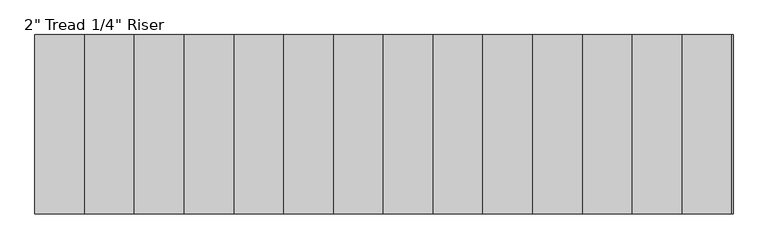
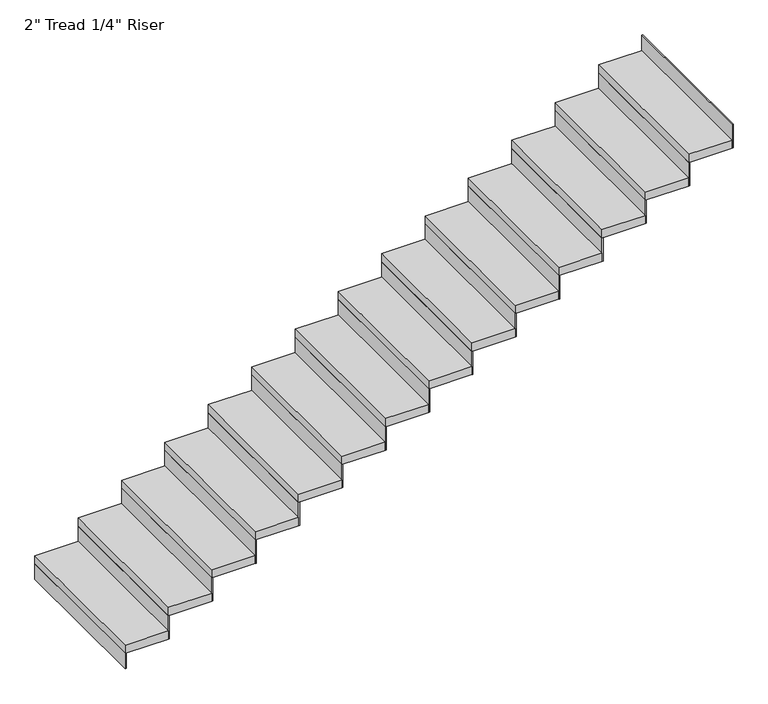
"""IFC4 building model written with IfcOpenShell, lengths in millimetres: stair flight geometry."""

from ifc_helpers import new_model, si_unit, frame, origin, origin_with_axes, place, context, project, spatial, polyline, outline, extrude, source, transform, mapped, element, save


def stair_flight_0315c361(model_context):
    return source(origin(), model_context, "Body", "SweptSolid", [
        extrude(outline(polyline([(157748.3811068, -2400.7855758), (157742.0311068, -2400.7855758), (157742.0311068, -1486.3855758), (157748.3811068, -1486.3855758), (157748.3811068, -2400.7855758)])), origin_with_axes(), (0.0, 0.0, 1.0), 94.3428571),
        extrude(outline(polyline([(157996.0311068, -1486.3855758), (157996.0311068, -2400.7855758), (157742.0311068, -2400.7855758), (157742.0311068, -1486.3855758), (157996.0311068, -1486.3855758)])), frame((0.0, 0.0, 94.3428571), z_axis=(0.0, 0.0, 1.0), x_axis=(1.0, 0.0, 0.0)), (0.0, 0.0, 1.0), 50.8),
        extrude(outline(polyline([(158002.3811068, -2400.7855758), (157996.0311068, -2400.7855758), (157996.0311068, -1486.3855758), (158002.3811068, -1486.3855758), (158002.3811068, -2400.7855758)])), frame((0.0, 0.0, 94.3428571), z_axis=(0.0, 0.0, 1.0), x_axis=(1.0, 0.0, 0.0)), (0.0, 0.0, 1.0), 145.1428571),
        extrude(outline(polyline([(158250.0311068, -1486.3855758), (158250.0311068, -2400.7855758), (157996.0311068, -2400.7855758), (157996.0311068, -1486.3855758), (158250.0311068, -1486.3855758)])), frame((0.0, 0.0, 239.4857143), z_axis=(0.0, 0.0, 1.0), x_axis=(1.0, 0.0, 0.0)), (0.0, 0.0, 1.0), 50.8),
        extrude(outline(polyline([(158256.3811068, -2400.7855758), (158250.0311068, -2400.7855758), (158250.0311068, -1486.3855758), (158256.3811068, -1486.3855758), (158256.3811068, -2400.7855758)])), frame((0.0, 0.0, 239.4857143), z_axis=(0.0, 0.0, 1.0), x_axis=(1.0, 0.0, 0.0)), (0.0, 0.0, 1.0), 145.1428571),
        extrude(outline(polyline([(158504.0311068, -1486.3855758), (158504.0311068, -2400.7855758), (158250.0311068, -2400.7855758), (158250.0311068, -1486.3855758), (158504.0311068, -1486.3855758)])), frame((0.0, 0.0, 384.6285714), z_axis=(0.0, 0.0, 1.0), x_axis=(1.0, 0.0, 0.0)), (0.0, 0.0, 1.0), 50.8),
        extrude(outline(polyline([(158510.3811068, -2400.7855758), (158504.0311068, -2400.7855758), (158504.0311068, -1486.3855758), (158510.3811068, -1486.3855758), (158510.3811068, -2400.7855758)])), frame((0.0, 0.0, 384.6285714), z_axis=(0.0, 0.0, 1.0), x_axis=(1.0, 0.0, 0.0)), (0.0, 0.0, 1.0), 145.1428571),
        extrude(outline(polyline([(158758.0311068, -1486.3855758), (158758.0311068, -2400.7855758), (158504.0311068, -2400.7855758), (158504.0311068, -1486.3855758), (158758.0311068, -1486.3855758)])), frame((0.0, 0.0, 529.7714286), z_axis=(0.0, 0.0, 1.0), x_axis=(1.0, 0.0, 0.0)), (0.0, 0.0, 1.0), 50.8),
        extrude(outline(polyline([(158764.3811068, -2400.7855758), (158758.0311068, -2400.7855758), (158758.0311068, -1486.3855758), (158764.3811068, -1486.3855758), (158764.3811068, -2400.7855758)])), frame((0.0, 0.0, 529.7714286), z_axis=(0.0, 0.0, 1.0), x_axis=(1.0, 0.0, 0.0)), (0.0, 0.0, 1.0), 145.1428571),
        extrude(outline(polyline([(159012.0311068, -1486.3855758), (159012.0311068, -2400.7855758), (158758.0311068, -2400.7855758), (158758.0311068, -1486.3855758), (159012.0311068, -1486.3855758)])), frame((0.0, 0.0, 674.9142857), z_axis=(0.0, 0.0, 1.0), x_axis=(1.0, 0.0, 0.0)), (0.0, 0.0, 1.0), 50.8),
        extrude(outline(polyline([(159018.3811068, -2400.7855758), (159012.0311068, -2400.7855758), (159012.0311068, -1486.3855758), (159018.3811068, -1486.3855758), (159018.3811068, -2400.7855758)])), frame((0.0, 0.0, 674.9142857), z_axis=(0.0, 0.0, 1.0), x_axis=(1.0, 0.0, 0.0)), (0.0, 0.0, 1.0), 145.1428571),
        extrude(outline(polyline([(159266.0311068, -1486.3855758), (159266.0311068, -2400.7855758), (159012.0311068, -2400.7855758), (159012.0311068, -1486.3855758), (159266.0311068, -1486.3855758)])), frame((0.0, 0.0, 820.0571429), z_axis=(0.0, 0.0, 1.0), x_axis=(1.0, 0.0, 0.0)), (0.0, 0.0, 1.0), 50.8),
        extrude(outline(polyline([(159272.3811068, -2400.7855758), (159266.0311068, -2400.7855758), (159266.0311068, -1486.3855758), (159272.3811068, -1486.3855758), (159272.3811068, -2400.7855758)])), frame((0.0, 0.0, 820.0571429), z_axis=(0.0, 0.0, 1.0), x_axis=(1.0, 0.0, 0.0)), (0.0, 0.0, 1.0), 145.1428571),
        extrude(outline(polyline([(159520.0311068, -1486.3855758), (159520.0311068, -2400.7855758), (159266.0311068, -2400.7855758), (159266.0311068, -1486.3855758), (159520.0311068, -1486.3855758)])), frame((0.0, 0.0, 965.2), z_axis=(0.0, 0.0, 1.0), x_axis=(1.0, 0.0, 0.0)), (0.0, 0.0, 1.0), 50.8),
        extrude(outline(polyline([(159526.3811068, -2400.7855758), (159520.0311068, -2400.7855758), (159520.0311068, -1486.3855758), (159526.3811068, -1486.3855758), (159526.3811068, -2400.7855758)])), frame((0.0, 0.0, 965.2), z_axis=(0.0, 0.0, 1.0), x_axis=(1.0, 0.0, 0.0)), (0.0, 0.0, 1.0), 145.1428571),
        extrude(outline(polyline([(159774.0311068, -1486.3855758), (159774.0311068, -2400.7855758), (159520.0311068, -2400.7855758), (159520.0311068, -1486.3855758), (159774.0311068, -1486.3855758)])), frame((0.0, 0.0, 1110.3428571), z_axis=(0.0, 0.0, 1.0), x_axis=(1.0, 0.0, 0.0)), (0.0, 0.0, 1.0), 50.8),
        extrude(outline(polyline([(159780.3811068, -2400.7855758), (159774.0311068, -2400.7855758), (159774.0311068, -1486.3855758), (159780.3811068, -1486.3855758), (159780.3811068, -2400.7855758)])), frame((0.0, 0.0, 1110.3428571), z_axis=(0.0, 0.0, 1.0), x_axis=(1.0, 0.0, 0.0)), (0.0, 0.0, 1.0), 145.1428571),
        extrude(outline(polyline([(160028.0311068, -1486.3855758), (160028.0311068, -2400.7855758), (159774.0311068, -2400.7855758), (159774.0311068, -1486.3855758), (160028.0311068, -1486.3855758)])), frame((0.0, 0.0, 1255.4857143), z_axis=(0.0, 0.0, 1.0), x_axis=(1.0, 0.0, 0.0)), (0.0, 0.0, 1.0), 50.8),
        extrude(outline(polyline([(160034.3811068, -2400.7855758), (160028.0311068, -2400.7855758), (160028.0311068, -1486.3855758), (160034.3811068, -1486.3855758), (160034.3811068, -2400.7855758)])), frame((0.0, 0.0, 1255.4857143), z_axis=(0.0, 0.0, 1.0), x_axis=(1.0, 0.0, 0.0)), (0.0, 0.0, 1.0), 145.1428571),
        extrude(outline(polyline([(160282.0311068, -1486.3855758), (160282.0311068, -2400.7855758), (160028.0311068, -2400.7855758), (160028.0311068, -1486.3855758), (160282.0311068, -1486.3855758)])), frame((0.0, 0.0, 1400.6285714), z_axis=(0.0, 0.0, 1.0), x_axis=(1.0, 0.0, 0.0)), (0.0, 0.0, 1.0), 50.8),
        extrude(outline(polyline([(160288.3811068, -2400.7855758), (160282.0311068, -2400.7855758), (160282.0311068, -1486.3855758), (160288.3811068, -1486.3855758), (160288.3811068, -2400.7855758)])), frame((0.0, 0.0, 1400.6285714), z_axis=(0.0, 0.0, 1.0), x_axis=(1.0, 0.0, 0.0)), (0.0, 0.0, 1.0), 145.1428571),
        extrude(outline(polyline([(160536.0311068, -1486.3855758), (160536.0311068, -2400.7855758), (160282.0311068, -2400.7855758), (160282.0311068, -1486.3855758), (160536.0311068, -1486.3855758)])), frame((0.0, 0.0, 1545.7714286), z_axis=(0.0, 0.0, 1.0), x_axis=(1.0, 0.0, 0.0)), (0.0, 0.0, 1.0), 50.8),
        extrude(outline(polyline([(160542.3811068, -2400.7855758), (160536.0311068, -2400.7855758), (160536.0311068, -1486.3855758), (160542.3811068, -1486.3855758), (160542.3811068, -2400.7855758)])), frame((0.0, 0.0, 1545.7714286), z_axis=(0.0, 0.0, 1.0), x_axis=(1.0, 0.0, 0.0)), (0.0, 0.0, 1.0), 145.1428571),
        extrude(outline(polyline([(160790.0311068, -1486.3855758), (160790.0311068, -2400.7855758), (160536.0311068, -2400.7855758), (160536.0311068, -1486.3855758), (160790.0311068, -1486.3855758)])), frame((0.0, 0.0, 1690.9142857), z_axis=(0.0, 0.0, 1.0), x_axis=(1.0, 0.0, 0.0)), (0.0, 0.0, 1.0), 50.8),
        extrude(outline(polyline([(160796.3811068, -2400.7855758), (160790.0311068, -2400.7855758), (160790.0311068, -1486.3855758), (160796.3811068, -1486.3855758), (160796.3811068, -2400.7855758)])), frame((0.0, 0.0, 1690.9142857), z_axis=(0.0, 0.0, 1.0), x_axis=(1.0, 0.0, 0.0)), (0.0, 0.0, 1.0), 145.1428571),
        extrude(outline(polyline([(161044.0311068, -1486.3855758), (161044.0311068, -2400.7855758), (160790.0311068, -2400.7855758), (160790.0311068, -1486.3855758), (161044.0311068, -1486.3855758)])), frame((0.0, 0.0, 1836.0571429), z_axis=(0.0, 0.0, 1.0), x_axis=(1.0, 0.0, 0.0)), (0.0, 0.0, 1.0), 50.8),
        extrude(outline(polyline([(161050.3811068, -2400.7855758), (161044.0311068, -2400.7855758), (161044.0311068, -1486.3855758), (161050.3811068, -1486.3855758), (161050.3811068, -2400.7855758)])), frame((0.0, 0.0, 1836.0571429), z_axis=(0.0, 0.0, 1.0), x_axis=(1.0, 0.0, 0.0)), (0.0, 0.0, 1.0), 145.1428571),
        extrude(outline(polyline([(161304.3811068, -2400.7855758), (161298.0311068, -2400.7855758), (161298.0311068, -1486.3855758), (161304.3811068, -1486.3855758), (161304.3811068, -2400.7855758)])), frame((0.0, 0.0, 1981.2), z_axis=(0.0, 0.0, 1.0), x_axis=(1.0, 0.0, 0.0)), (0.0, 0.0, 1.0), 145.1428571),
        extrude(outline(polyline([(161298.0311068, -1486.3855758), (161298.0311068, -2400.7855758), (161044.0311068, -2400.7855758), (161044.0311068, -1486.3855758), (161298.0311068, -1486.3855758)])), frame((0.0, 0.0, 1981.2), z_axis=(0.0, 0.0, 1.0), x_axis=(1.0, 0.0, 0.0)), (0.0, 0.0, 1.0), 50.8),
    ])


if __name__ == "__main__":
    model = new_model("IFC4")
    model_context = context("Model", 3, world=origin())
    ifc_project = project(units=[si_unit("LENGTHUNIT", "METRE", prefix="MILLI")], contexts=[model_context])
    site = spatial("IfcSite", under=ifc_project)
    building = spatial("IfcBuilding", under=site)
    placement = place(None, origin())
    stair_flight_shape = stair_flight_0315c361(model_context)
    element("IfcStairFlight", 1, ObjectType="2\" Tread 1/4\" Riser", at=placement, inside=building, context=model_context, shape_type="MappedRepresentation", body=[
        mapped(stair_flight_shape, transform((0.0, 0.0, 0.0), x_axis=(1.0, 0.0, 0.0), y_axis=(0.0, 1.0, 0.0), z_axis=(0.0, 0.0, 1.0))),
    ])
    save(model, "model.ifc")
